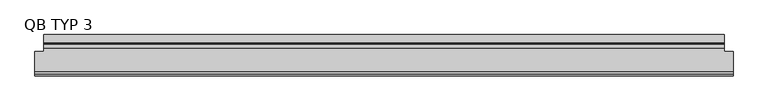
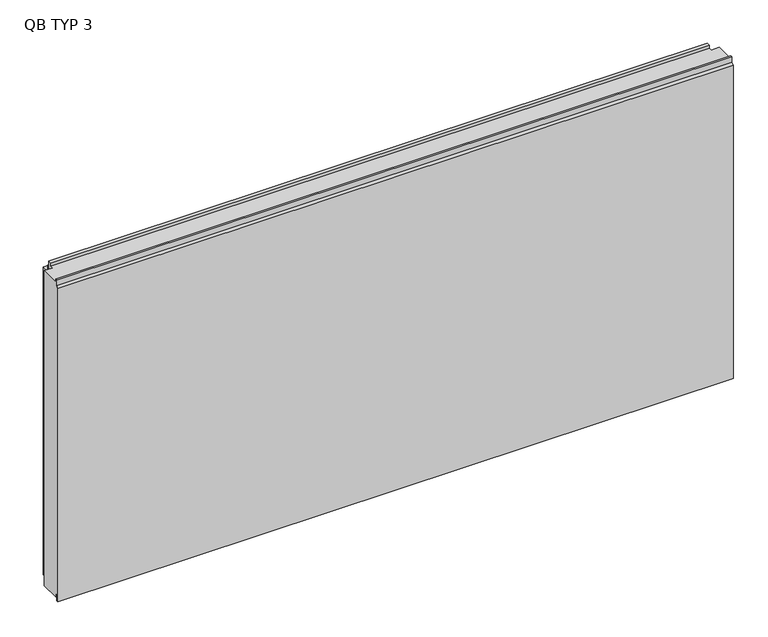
"""IFC4 building model written with IfcOpenShell, lengths in millimetres: plate geometry, TR_C_H_QBISS_Panel : QB TYP 3."""

from ifc_helpers import new_model, si_unit, frame, origin, place, context, project, spatial, polyline, outline, extrude, faceted_brep, source, transform, mapped, element, save


def qb_typ_3_2d20ebb0(model_context):
    return source(origin(), model_context, "Body", "SolidModel", [
        faceted_brep([(1012.8999999, -108.0, 1000.0), (1012.8999999, -108.0, 1010.0), (1012.8999999, -114.0, 1010.0), (1012.8999999, -114.0, 992.0), (1012.8999999, -120.0, 986.0), (1012.8999999, -120.0, -8.0), (1012.8999999, -114.0, -8.0), (1012.8999999, -114.0, 13.0), (1012.8999999, -108.0, 13.0), (1012.8999999, -108.0, 0.0), (1012.8999999, -49.0, 0.0), (1012.8999999, -49.0, 1000.0), (-1012.8999999, -108.0, 0.0), (-1012.8999999, -108.0, 13.0), (-1012.8999999, -114.0, 13.0), (-1012.8999999, -114.0, -8.0), (-1012.8999999, -120.0, -8.0), (-1012.8999999, -120.0, 986.0), (-1012.8999999, -114.0, 992.0), (-1012.8999999, -114.0, 1010.0), (-1012.8999999, -108.0, 1010.0), (-1012.8999999, -108.0, 1000.0), (-1012.8999999, -49.0, 1000.0), (-1012.8999999, -49.0, 0.0), (-987.7999999, -49.0, 0.0), (-987.7999999, -39.0, 0.0), (987.7999999, -39.0, 0.0), (987.7999999, -49.0, 0.0), (-987.7999999, -39.0, 13.0), (987.7999999, -39.0, 13.0), (-987.7999999, -29.0, 13.0), (987.7999999, -29.0, 13.0), (-987.7999999, -29.0, -4.0), (987.7999999, -29.0, -4.0), (-987.7999999, 0.0, -4.0), (987.7999999, 0.0, -4.0), (-987.7999999, 0.0, 973.0), (987.7999999, 0.0, 973.0), (-987.7999999, -29.0, 973.0), (987.7999999, -29.0, 973.0), (-987.7999999, -29.0, 1010.0), (987.7999999, -29.0, 1010.0), (-987.7999999, -39.0, 1010.0), (987.7999999, -39.0, 1010.0), (-987.7999999, -39.0, 1000.0), (987.7999999, -39.0, 1000.0), (987.7999999, -49.0, 1000.0), (-987.7999999, -49.0, 1000.0)], [[[0, 1, 2, 3, 4, 5, 6, 7, 8, 9, 10, 11]], [[12, 13, 14, 15, 16, 17, 18, 19, 20, 21, 22, 23]], [[9, 12, 23, 24, 25, 26, 27, 10]], [[26, 25, 28, 29]], [[29, 28, 30, 31]], [[31, 30, 32, 33]], [[33, 32, 34, 35]], [[35, 34, 36, 37]], [[37, 36, 38, 39]], [[39, 38, 40, 41]], [[41, 40, 42, 43]], [[43, 42, 44, 45]], [[21, 0, 11, 46, 45, 44, 47, 22]], [[1, 0, 21, 20]], [[2, 1, 20, 19]], [[3, 2, 19, 18]], [[4, 3, 18, 17]], [[5, 4, 17, 16]], [[6, 5, 16, 15]], [[7, 6, 15, 14]], [[8, 7, 14, 13]], [[9, 8, 13, 12]], [[47, 24, 23, 22]], [[24, 47, 44, 42, 40, 38, 36, 34, 32, 30, 28, 25]], [[46, 27, 26, 29, 31, 33, 35, 37, 39, 41, 43, 45]], [[27, 46, 11, 10]]]),
        extrude(outline(polyline([(-24.0, 994.5), (-24.0, 974.5), (-25.4998317, 974.5), (-25.4998317, 981.3023028), (-27.9998293, 981.3023028), (-27.9998293, 980.5023028), (-28.7998428, 980.5023028), (-28.7998428, 988.5023593), (-27.9998293, 988.5023593), (-27.9998293, 987.7023593), (-25.4998317, 987.7023593), (-25.4998317, 994.5), (-24.0, 994.5)])), frame((-987.7999999, 0.0, 0.0), z_axis=(1.0, 0.0, 0.0), x_axis=(0.0, 1.0, 0.0)), (0.0, 0.0, 1.0), 1975.5999998),
    ])


if __name__ == "__main__":
    model = new_model("IFC4")
    model_context = context("Model", 3, world=origin())
    ifc_project = project(units=[si_unit("LENGTHUNIT", "METRE", prefix="MILLI")], contexts=[model_context])
    site = spatial("IfcSite", under=ifc_project)
    building = spatial("IfcBuilding", under=site)
    placement = place(None, origin())
    qb_typ_3_shape = qb_typ_3_2d20ebb0(model_context)
    element("IfcPlate", 1, ObjectType="TR_C_H_QBISS_Panel : QB TYP 3", at=placement, inside=building, context=model_context, shape_type="MappedRepresentation", body=[
        mapped(qb_typ_3_shape, transform((0.0, 0.0, 0.0), x_axis=(1.0, 0.0, 0.0), y_axis=(0.0, 1.0, 0.0), z_axis=(0.0, 0.0, 1.0))),
    ])
    save(model, "model.ifc")
